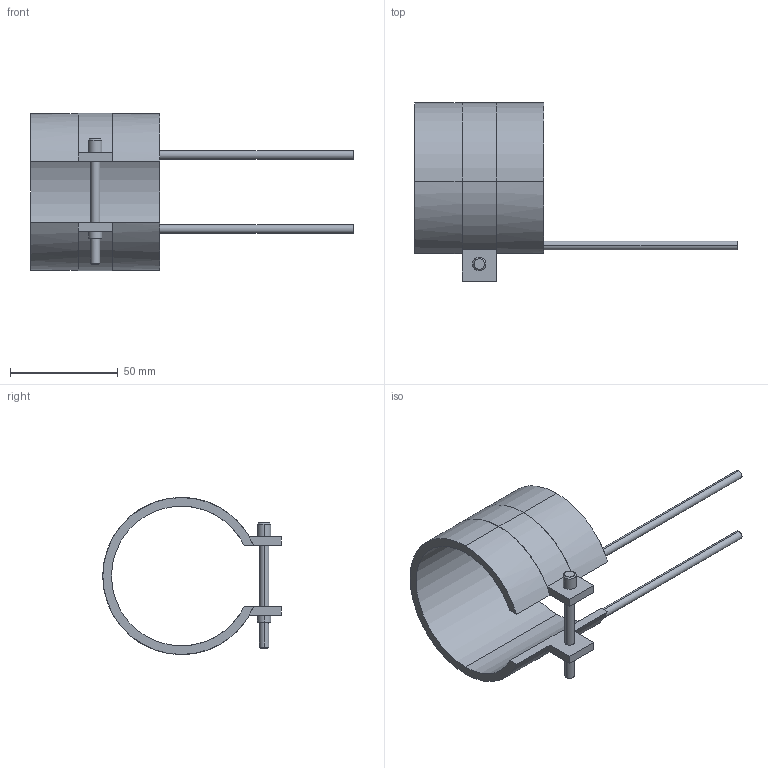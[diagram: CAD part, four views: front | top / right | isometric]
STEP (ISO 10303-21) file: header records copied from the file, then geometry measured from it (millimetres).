
FILE_DESCRIPTION(('CATIA V5 STEP Exchange'),'2;1');
FILE_NAME('C:\Users\Utente\Desktop\IO LAVORO\3D X SITO CF\X SITO\PLASTICA\RF2\14065060.stp','2021-04-03T07:18:20+00:00',('none'),('none'),'CATIA Version 5 Release 20 GA (IN-10)','CATIA V5 STEP AP203','none');
FILE_SCHEMA(('CONFIG_CONTROL_DESIGN'));
Length unit declared in the file: millimetre
Products named in the file (1): 14065060
Bounding box: 150 x 83.1 x 73.2 mm (x, y, z)
Volume: 50200.9 mm3; surface area: 28615.4 mm2
Topology: 1 solids, 1 shells, 45 faces, 116 edges, 76 vertices
Faces by surface type: cylinder 24, plane 17, cone 4
Entity records: 1406 total; most frequent: CARTESIAN_POINT 280, ORIENTED_EDGE 232, DIRECTION 196, EDGE_CURVE 116, AXIS2_PLACEMENT_3D 104, VERTEX_POINT 76, CIRCLE 62, VECTOR 52
